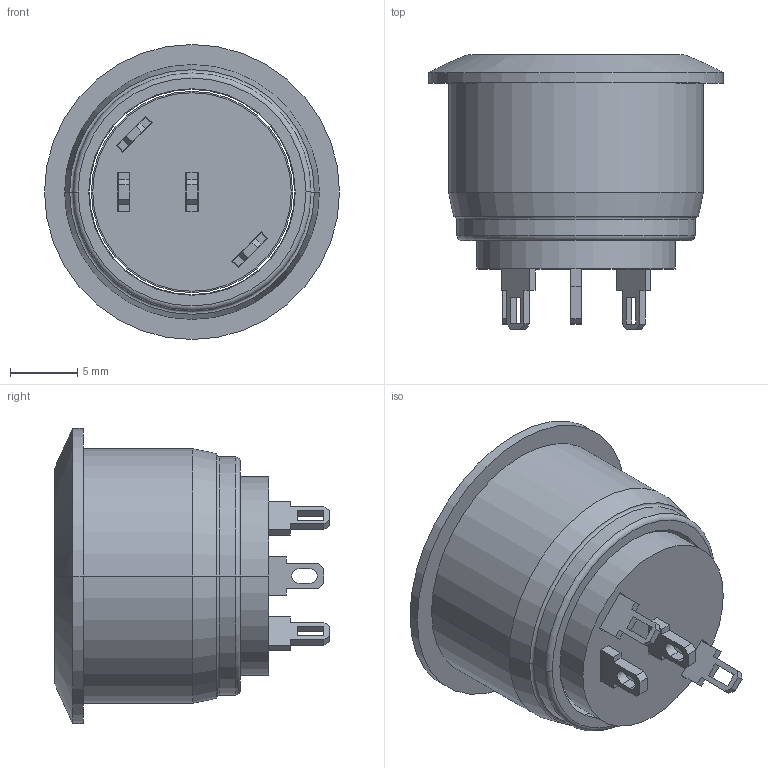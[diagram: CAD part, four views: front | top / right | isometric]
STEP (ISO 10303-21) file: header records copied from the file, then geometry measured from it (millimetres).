
FILE_DESCRIPTION((''),'2;1');
FILE_NAME('AV9SLD2633011','2012-09-25T',('jlgachon'),(''),'PRO/ENGINEER BY PARAMETRIC TECHNOLOGY CORPORATION, 2011250','PRO/ENGINEER BY PARAMETRIC TECHNOLOGY CORPORATION, 2011250','');
FILE_SCHEMA(('CONFIG_CONTROL_DESIGN'));
Length unit declared in the file: millimetre
Products named in the file (1): AV9SLD2633011
Bounding box: 22 x 20.48 x 22 mm (x, y, z)
Surface area: 1740.1 mm2 (no closed solid volume)
Topology: 0 solids, 11 shells, 85 faces, 296 edges, 224 vertices
Faces by surface type: plane 65, cylinder 12, torus 4, cone 2, bspline 2
Entity records: 3275 total; most frequent: CARTESIAN_POINT 635, DIRECTION 532, ORIENTED_EDGE 484, EDGE_CURVE 296, VECTOR 226, LINE 226, VERTEX_POINT 224, AXIS2_PLACEMENT_3D 153
